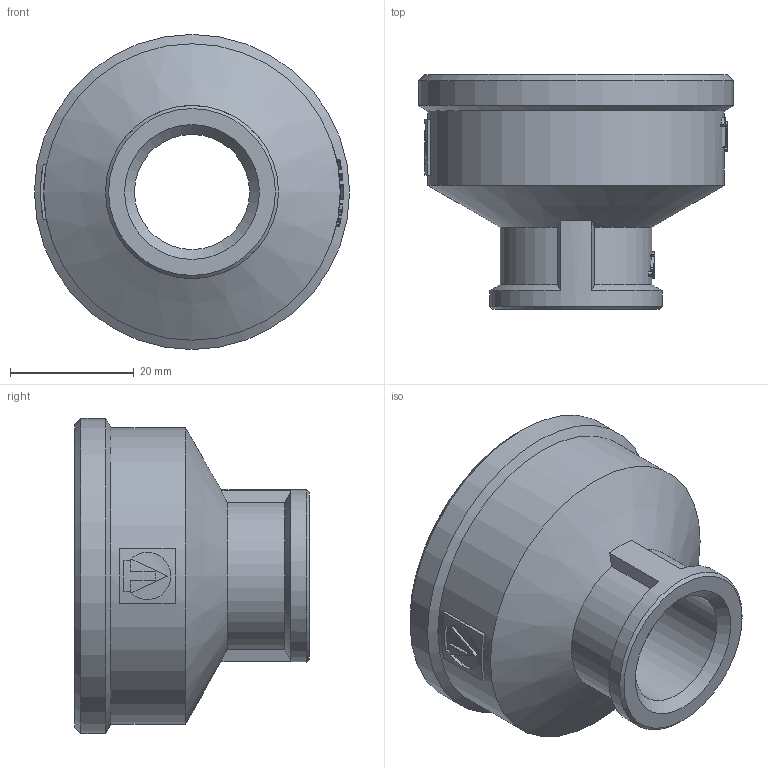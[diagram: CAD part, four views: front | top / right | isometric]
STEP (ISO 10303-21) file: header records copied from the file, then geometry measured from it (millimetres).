
FILE_DESCRIPTION(('STEP AP203'), '1');
FILE_NAME('ﾂﾐ.714361.006 - VTr.240.N.0704 ﾌ G1 1-41-2', '2024-06-27T08:11:37', ('Boss'), (''), 'C3D Converter', 'C3D Toolkit', '');
FILE_SCHEMA(('CONFIG_CONTROL_DESIGN'));
Length unit declared in the file: millimetre
Products named in the file (1): ВР.714361.006
Bounding box: 51 x 38 x 51 mm (x, y, z)
Volume: 18343.3 mm3; surface area: 10704.3 mm2
Topology: 1 solids, 1 shells, 228 faces, 631 edges, 418 vertices
Faces by surface type: extrusion 121, plane 76, cylinder 22, cone 9
Full cylindrical faces by diameter (mm): 18.632 x1, 28 x1, 38.953 x1, 48 x1, 51 x1
Entity records: 9731 total; most frequent: CARTESIAN_POINT 4621, ORIENTED_EDGE 1236, DIRECTION 669, EDGE_CURVE 618, VERTEX_POINT 418, B_SPLINE_CURVE_WITH_KNOTS 373, VECTOR 353, EDGE_LOOP 256
